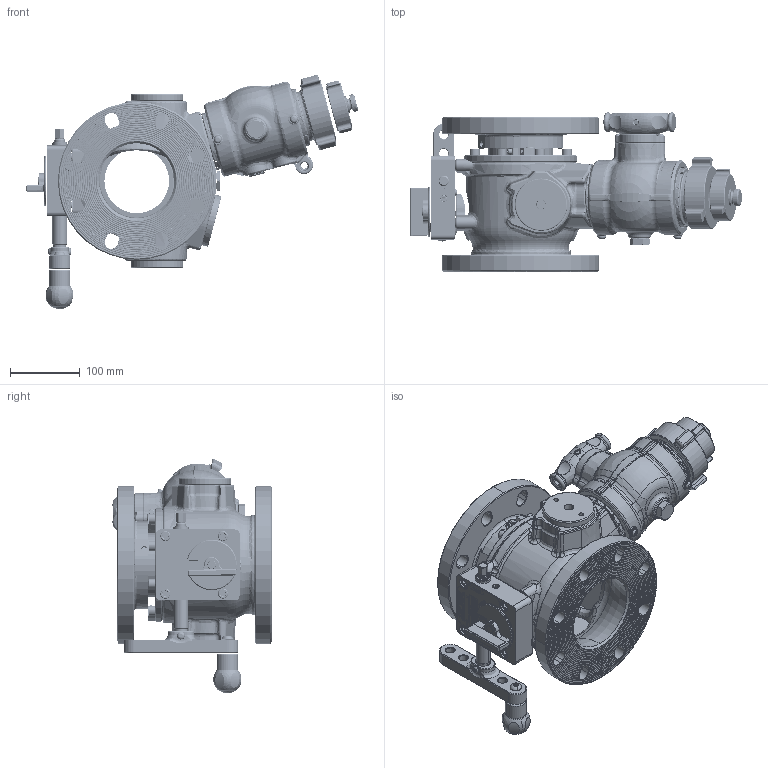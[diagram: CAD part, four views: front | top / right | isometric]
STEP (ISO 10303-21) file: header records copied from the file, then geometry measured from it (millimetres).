
FILE_DESCRIPTION (( 'STEP AP214' ), '1' );
FILE_NAME ('AKM.SLDASM_AKM131141D.step', '2014-09-16T14:43:03', ( '' ), ( '' ), 'SwSTEP 2.0', 'SolidWorks 2014', '' );
FILE_SCHEMA (( 'AUTOMOTIVE_DESIGN' ));
Length unit declared in the file: inch
Products named in the file (1): AKM.SLDASM_AKM131141D
Bounding box: 476.24 x 228.34 x 336.29 mm (x, y, z)
Surface area: 641716.7 mm2 (no closed solid volume)
Topology: 0 solids, 342 shells, 3080 faces, 17504 edges, 14533 vertices
Faces by surface type: plane 903, torus 731, cylinder 595, bspline 422, cone 403, sphere 26
Entity records: 274199 total; most frequent: CARTESIAN_POINT 112819, ORIENTED_EDGE 23796, DIRECTION 20285, EDGE_CURVE 17445, VERTEX_POINT 14529, VECTOR 8503, LINE 8503, AXIS2_PLACEMENT_3D 5891
